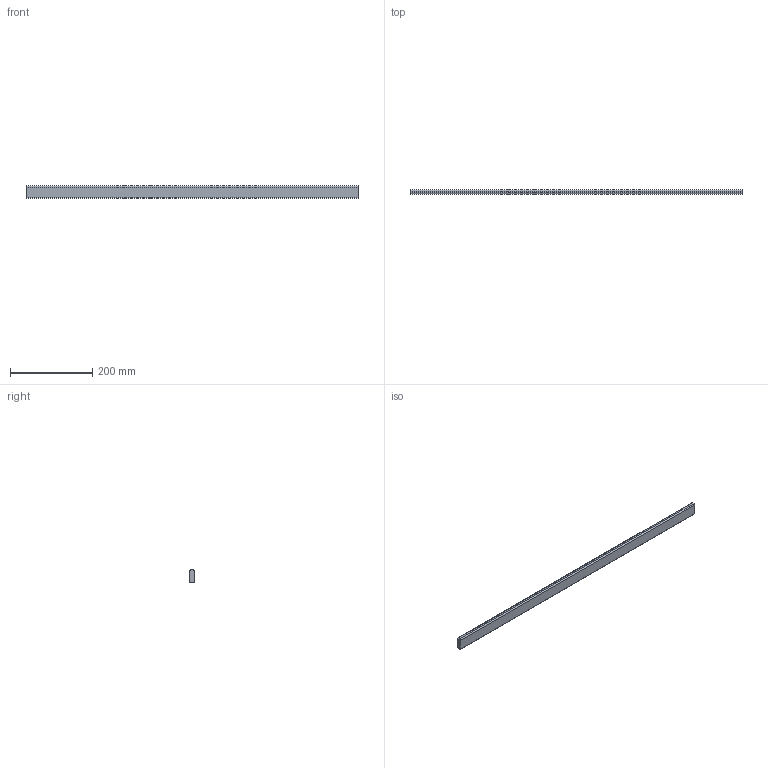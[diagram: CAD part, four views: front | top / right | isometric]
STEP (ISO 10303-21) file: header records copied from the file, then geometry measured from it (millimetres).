
FILE_DESCRIPTION (( 'STEP AP214' ), '1' );
FILE_NAME ('_Querreling_KAB-900_KS-19.step', '2010-08-26T14:58:38', ( 'grass' ), ( '' ), 'SwSTEP 2.0', 'SolidWorks 2009', '' );
FILE_SCHEMA (( 'AUTOMOTIVE_DESIGN' ));
Length unit declared in the file: millimetre
Products named in the file (1): _Querreling_KAB-900_KS-19
Bounding box: 806.5 x 10.5 x 30 mm (x, y, z)
Volume: 250586 mm3; surface area: 63178.7 mm2
Topology: 1 solids, 1 shells, 10 faces, 24 edges, 16 vertices
Faces by surface type: plane 6, cylinder 4
Entity records: 330 total; most frequent: DIRECTION 54, CARTESIAN_POINT 51, ORIENTED_EDGE 48, EDGE_CURVE 24, AXIS2_PLACEMENT_3D 19, LINE 16, VECTOR 16, VERTEX_POINT 16
